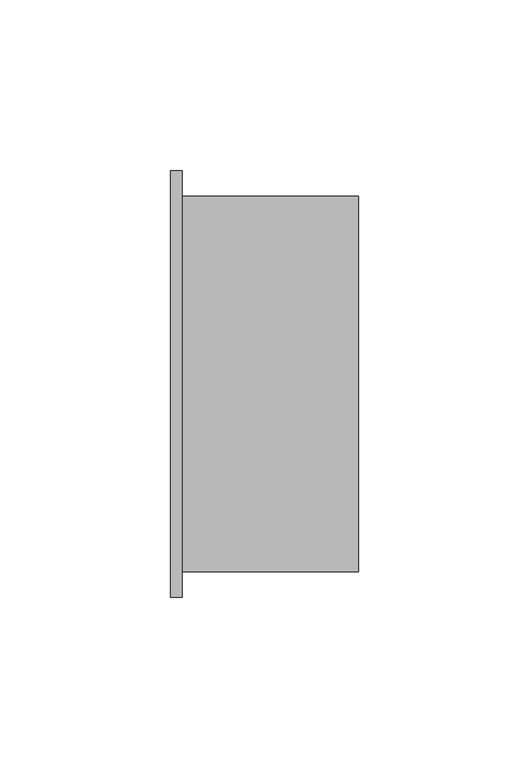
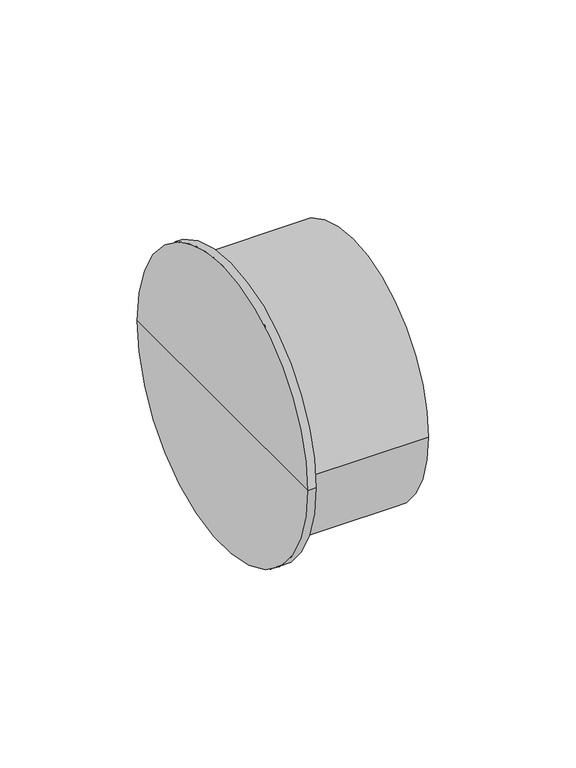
"""IFC4 building model written with IfcOpenShell, lengths in millimetres: pipe fitting geometry, OSMA_KG2000_PPKGM : Hrdlová zátka."""

from ifc_helpers import new_model, si_unit, frame, origin, place, context, project, spatial, circle_curve, source, transform, mapped, element, save
from ifc_brep_helpers import plane_surface, cylinder_surface, advanced_brep


def pipe_fitting_79d2121d(model_context):
    return source(origin(), model_context, "Body", "AdvancedBrep", [
        advanced_brep(
        [(55.0, -55.0, 0.0), (55.0, 55.0, 0.0), (55.0, 0.0, 0.0), (3.4, -55.0, 0.0), (3.4, 55.0, 0.0), (3.4, -62.4, 0.0), (3.4, 62.4, 0.0), (0.0, -62.4, 0.0), (0.0, 62.4, 0.0), (0.0, 0.0, 0.0)],
        [
            (0, 1, circle_curve(frame((55.0, 0.0, 0.0), z_axis=(1.0, 0.0, 0.0), x_axis=(0.0, 1.0, 0.0)), 55.0)),
            (1, 2),
            (2, 0),
            (1, 0, circle_curve(frame((55.0, 0.0, 0.0), z_axis=(1.0, 0.0, 0.0), x_axis=(0.0, 1.0, 0.0)), 55.0)),
            (3, 4, circle_curve(frame((3.4, 0.0, 0.0), z_axis=(1.0, 0.0, 0.0), x_axis=(0.0, 1.0, 0.0)), 55.0)),
            (4, 1),
            (0, 3),
            (4, 3, circle_curve(frame((3.4, 0.0, 0.0), z_axis=(1.0, 0.0, 0.0), x_axis=(0.0, 1.0, 0.0)), 55.0)),
            (5, 6, circle_curve(frame((3.4, 0.0, 0.0), z_axis=(1.0, 0.0, 0.0), x_axis=(0.0, 1.0, 0.0)), 62.4)),
            (6, 4),
            (3, 5),
            (6, 5, circle_curve(frame((3.4, 0.0, 0.0), z_axis=(1.0, 0.0, 0.0), x_axis=(0.0, 1.0, 0.0)), 62.4)),
            (7, 8, circle_curve(frame((0.0, 0.0, 0.0), z_axis=(1.0, 0.0, 0.0), x_axis=(0.0, 1.0, 0.0)), 62.4)),
            (8, 6),
            (5, 7),
            (8, 7, circle_curve(frame((0.0, 0.0, 0.0), z_axis=(1.0, 0.0, 0.0), x_axis=(0.0, 1.0, 0.0)), 62.4)),
            (9, 8),
            (7, 9),
        ],
        [
            plane_surface(frame((55.0, 0.0, 0.0), z_axis=(1.0, 0.0, 0.0), x_axis=(0.0, 1.0, 0.0))),
            cylinder_surface(frame((2000.0, 0.0, 0.0), z_axis=(-1.0, 0.0, 0.0), x_axis=(0.0, 1.0, 0.0)), 55.0),
            plane_surface(frame((3.4, 0.0, 0.0), z_axis=(1.0, 0.0, 0.0), x_axis=(0.0, 1.0, 0.0))),
            cylinder_surface(frame((2000.0, 0.0, 0.0), z_axis=(-1.0, 0.0, 0.0), x_axis=(0.0, 1.0, 0.0)), 62.4),
            plane_surface(frame((0.0, 0.0, 0.0), z_axis=(-1.0, 0.0, 0.0), x_axis=(0.0, 1.0, 0.0))),
        ],
        [
            (0, [[1, 2, 3]]),
            (0, [[4, -3, -2]]),
            (1, [[5, 6, -1, 7]]),
            (1, [[8, -7, -4, -6]]),
            (2, [[9, 10, -5, 11]]),
            (2, [[12, -11, -8, -10]]),
            (3, [[13, 14, -9, 15]]),
            (3, [[16, -15, -12, -14]]),
            (4, [[17, -13, 18]]),
            (4, [[-18, -16, -17]]),
        ],
    ),
    ])


if __name__ == "__main__":
    model = new_model("IFC4")
    model_context = context("Model", 3, world=origin())
    ifc_project = project(units=[si_unit("LENGTHUNIT", "METRE", prefix="MILLI")], contexts=[model_context])
    site = spatial("IfcSite", under=ifc_project)
    building = spatial("IfcBuilding", under=site)
    placement = place(None, origin())
    pipe_fitting_shape = pipe_fitting_79d2121d(model_context)
    element("IfcPipeFitting", 1, ObjectType="OSMA_KG2000_PPKGM : Hrdlová zátka", at=placement, inside=building, context=model_context, shape_type="MappedRepresentation", body=[
        mapped(pipe_fitting_shape, transform((0.0, 0.0, 0.0), x_axis=(1.0, 0.0, 0.0), y_axis=(0.0, 1.0, 0.0), z_axis=(0.0, 0.0, 1.0))),
    ])
    save(model, "model.ifc")
